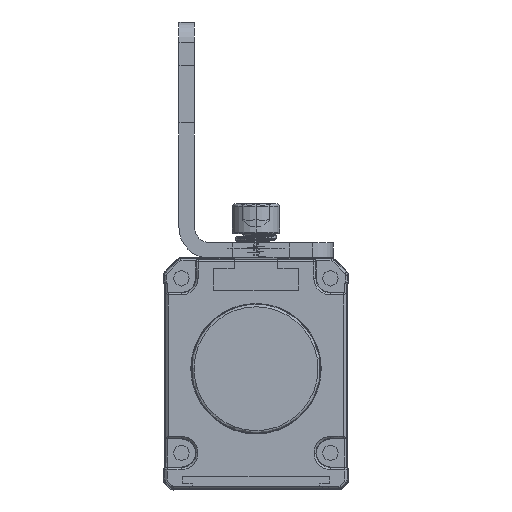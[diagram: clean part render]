
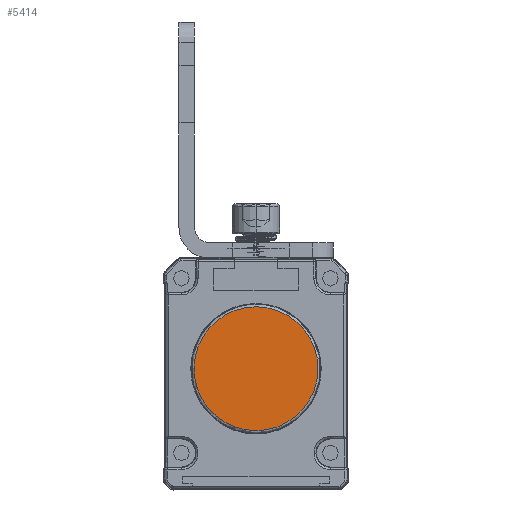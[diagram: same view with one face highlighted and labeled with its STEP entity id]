
A CAD part, front view. The second image highlights one B-rep face of the part: STEP entity #5414.
In plain terms, the highlighted planar face has unit normal (0, -1, 0) as drawn and (0, 1, 0) by its records, which use the part's own axes.
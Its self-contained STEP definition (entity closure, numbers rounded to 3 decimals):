
#2767=CARTESIAN_POINT('',(298.137,272.441,-93.947));
#2768=DIRECTION('',(0.,1.,0.));
#2769=DIRECTION('',(-1.,0.,-0.007));
#2770=AXIS2_PLACEMENT_3D('',#2767,#2768,#2769);
#2772=CARTESIAN_POINT('',(298.137,272.441,-93.947));
#2773=DIRECTION('',(0.,1.,0.));
#2774=DIRECTION('',(1.,0.,-0.001));
#2775=AXIS2_PLACEMENT_3D('',#2772,#2773,#2774);
#2777=CARTESIAN_POINT('',(298.137,272.441,-93.947));
#2778=DIRECTION('',(0.,1.,0.));
#2779=DIRECTION('',(1.,0.,0.007));
#2780=AXIS2_PLACEMENT_3D('',#2777,#2778,#2779);
#2782=CARTESIAN_POINT('',(298.137,272.441,-93.947));
#2783=DIRECTION('',(0.,1.,0.));
#2784=DIRECTION('',(-1.,0.,0.001));
#2785=AXIS2_PLACEMENT_3D('',#2782,#2783,#2784);
#2865=CARTESIAN_POINT('',(286.082,272.441,-94.027));
#2866=CARTESIAN_POINT('',(286.082,272.441,-93.939));
#2867=VERTEX_POINT('',#2865);
#2868=VERTEX_POINT('',#2866);
#2932=CARTESIAN_POINT('',(310.193,272.441,-93.955));
#2933=VERTEX_POINT('',#2932);
#3035=CARTESIAN_POINT('',(310.193,272.441,-93.867));
#3036=VERTEX_POINT('',#3035);
#5403=CARTESIAN_POINT('',(298.533,272.441,-94.753));
#5404=DIRECTION('',(0.,1.,0.));
#5405=DIRECTION('',(1.,0.,-0.001));
#5406=AXIS2_PLACEMENT_3D('',#5403,#5404,#5405);
#5407=PLANE('',#5406);
#5408=ORIENTED_EDGE('',*,*,#5380,.F.);
#5409=ORIENTED_EDGE('',*,*,#5394,.F.);
#5410=ORIENTED_EDGE('',*,*,#5392,.F.);
#5411=ORIENTED_EDGE('',*,*,#5382,.F.);
#5412=EDGE_LOOP('',(#5408,#5409,#5410,#5411));
#5413=FACE_OUTER_BOUND('',#5412,.F.);
#5414=ADVANCED_FACE('',(#5413),#5407,.T.);
#2771=CIRCLE('',#2770,12.056);
#2776=CIRCLE('',#2775,12.056);
#2781=CIRCLE('',#2780,12.056);
#2786=CIRCLE('',#2785,12.056);
#5380=EDGE_CURVE('',#2867,#2868,#2771,.T.);
#5382=EDGE_CURVE('',#2868,#3036,#2786,.T.);
#5392=EDGE_CURVE('',#3036,#2933,#2781,.T.);
#5394=EDGE_CURVE('',#2933,#2867,#2776,.T.);
